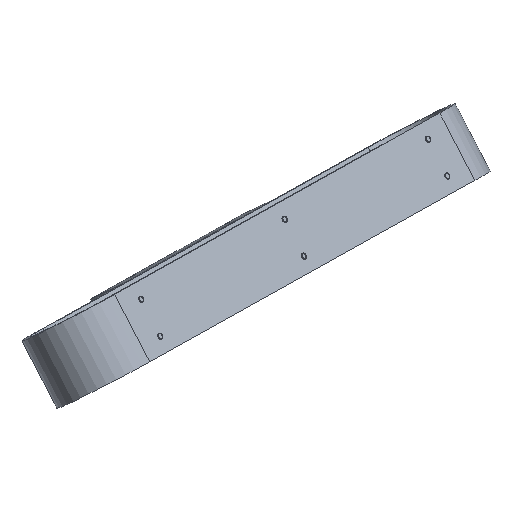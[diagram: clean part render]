
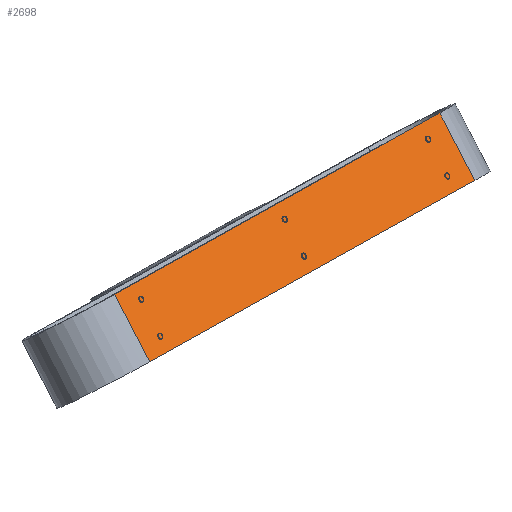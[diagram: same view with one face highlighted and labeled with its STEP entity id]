
A CAD part, front view. The second image highlights one B-rep face of the part: STEP entity #2698.
In plain terms, the highlighted planar face has unit normal (0.636, -0.709, 0.305) as drawn and (0, -1, 0) by its records, which use the part's own axes.
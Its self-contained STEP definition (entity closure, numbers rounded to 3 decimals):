
#90 = VECTOR ( 'NONE', #3295, 1000. ) ;
#360 = ORIENTED_EDGE ( 'NONE', *, *, #6649, .T. ) ;
#834 = CARTESIAN_POINT ( 'NONE',  ( 259.124, -33.948, 50. ) ) ;
#999 = ORIENTED_EDGE ( 'NONE', *, *, #4426, .T. ) ;
#1919 = DIRECTION ( 'NONE',  ( 0., 1., 0. ) ) ;
#2300 = AXIS2_PLACEMENT_3D ( 'NONE', #10701, #1919, #11802 ) ;
#2321 = LINE ( 'NONE', #3420, #90 ) ;
#2661 = EDGE_CURVE ( 'NONE', #7155, #3436, #4929, .T. ) ;
#2698 = ADVANCED_FACE ( 'NONE', ( #7873 ), #11733, .F. ) ;
#3295 = DIRECTION ( 'NONE',  ( 0., 0., -1. ) ) ;
#3396 = DIRECTION ( 'NONE',  ( 1., 0., 0. ) ) ;
#3420 = CARTESIAN_POINT ( 'NONE',  ( -85.876, -33.948, 50. ) ) ;
#3436 = VERTEX_POINT ( 'NONE', #7979 ) ;
#3887 = CARTESIAN_POINT ( 'NONE',  ( -85.876, -33.948, 50. ) ) ;
#4121 = CARTESIAN_POINT ( 'NONE',  ( 259.124, -33.948, 50. ) ) ;
#4355 = LINE ( 'NONE', #5318, #9369 ) ;
#4426 = EDGE_CURVE ( 'NONE', #9815, #3436, #4355, .T. ) ;
#4733 = DIRECTION ( 'NONE',  ( 0., 0., -1. ) ) ;
#4929 = LINE ( 'NONE', #834, #7826 ) ;
#5318 = CARTESIAN_POINT ( 'NONE',  ( 259.124, -33.948, 0. ) ) ;
#6108 = CARTESIAN_POINT ( 'NONE',  ( -85.876, -33.948, 0. ) ) ;
#6119 = CARTESIAN_POINT ( 'NONE',  ( 259.124, -33.948, 50. ) ) ;
#6649 = EDGE_CURVE ( 'NONE', #9719, #9815, #2321, .T. ) ;
#7155 = VERTEX_POINT ( 'NONE', #6119 ) ;
#7510 = ORIENTED_EDGE ( 'NONE', *, *, #2661, .F. ) ;
#7826 = VECTOR ( 'NONE', #4733, 1000. ) ;
#7873 = FACE_OUTER_BOUND ( 'NONE', #12346, .T. ) ;
#7979 = CARTESIAN_POINT ( 'NONE',  ( 259.124, -33.948, 0. ) ) ;
#9107 = LINE ( 'NONE', #4121, #12014 ) ;
#9369 = VECTOR ( 'NONE', #3396, 1000. ) ;
#9719 = VERTEX_POINT ( 'NONE', #3887 ) ;
#9815 = VERTEX_POINT ( 'NONE', #6108 ) ;
#10701 = CARTESIAN_POINT ( 'NONE',  ( 259.124, -33.948, 50. ) ) ;
#11733 = PLANE ( 'NONE',  #2300 ) ;
#11802 = DIRECTION ( 'NONE',  ( 0., 0., 1. ) ) ;
#11918 = ORIENTED_EDGE ( 'NONE', *, *, #12076, .F. ) ;
#11952 = DIRECTION ( 'NONE',  ( 1., 0., 0. ) ) ;
#12014 = VECTOR ( 'NONE', #11952, 1000. ) ;
#12076 = EDGE_CURVE ( 'NONE', #9719, #7155, #9107, .T. ) ;
#12346 = EDGE_LOOP ( 'NONE', ( #999, #7510, #11918, #360 ) ) ;
